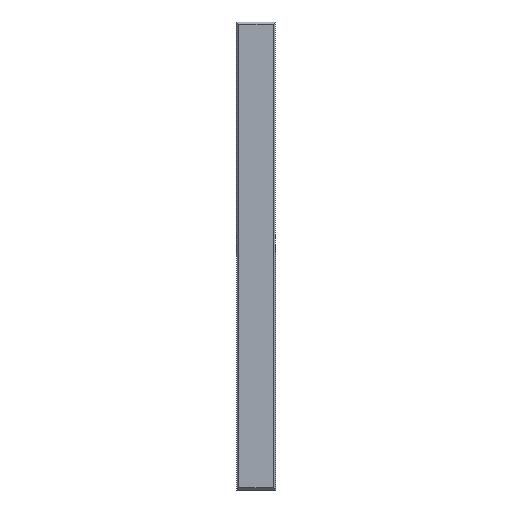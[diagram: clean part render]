
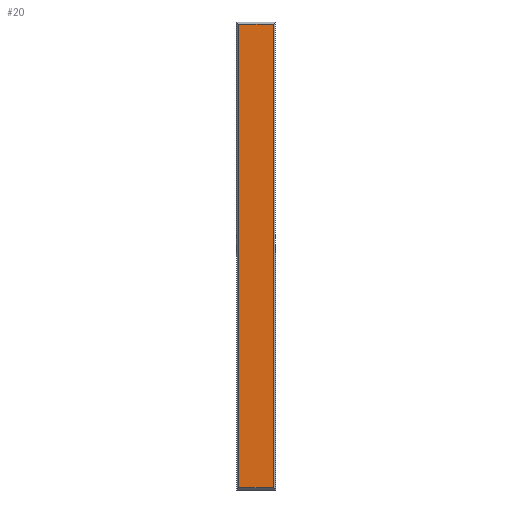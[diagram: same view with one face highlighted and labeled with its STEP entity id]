
A CAD part, front view. The second image highlights one B-rep face of the part: STEP entity #20.
In plain terms, the highlighted planar face has unit normal (0, -1, 0).
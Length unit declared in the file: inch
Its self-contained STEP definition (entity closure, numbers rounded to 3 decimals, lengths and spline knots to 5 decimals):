
#20=ADVANCED_FACE('',(#30),#142,.T.);
#30=FACE_OUTER_BOUND('',#40,.T.);
#40=EDGE_LOOP('',(#68,#69,#70,#71));
#68=ORIENTED_EDGE('',*,*,#84,.F.);
#69=ORIENTED_EDGE('',*,*,#95,.F.);
#70=ORIENTED_EDGE('',*,*,#91,.F.);
#71=ORIENTED_EDGE('',*,*,#88,.F.);
#84=EDGE_CURVE('',#124,#125,#104,.T.);
#88=EDGE_CURVE('',#125,#128,#108,.T.);
#91=EDGE_CURVE('',#128,#130,#111,.T.);
#95=EDGE_CURVE('',#130,#124,#115,.T.);
#104=B_SPLINE_CURVE_WITH_KNOTS('',1,(#285,#286),.UNSPECIFIED.,.F.,.F.,(2,
2),(0.,47.5),.UNSPECIFIED.);
#108=B_SPLINE_CURVE_WITH_KNOTS('',1,(#293,#294),.UNSPECIFIED.,.F.,.F.,(2,
2),(0.,3.5),.UNSPECIFIED.);
#111=B_SPLINE_CURVE_WITH_KNOTS('',1,(#299,#300),.UNSPECIFIED.,.F.,.F.,(2,
2),(0.,47.5),.UNSPECIFIED.);
#115=B_SPLINE_CURVE_WITH_KNOTS('',1,(#307,#308),.UNSPECIFIED.,.F.,.F.,(2,
2),(0.,3.5),.UNSPECIFIED.);
#124=VERTEX_POINT('',#273);
#125=VERTEX_POINT('',#274);
#128=VERTEX_POINT('',#277);
#130=VERTEX_POINT('',#279);
#142=PLANE('',#243);
#243=AXIS2_PLACEMENT_3D('',#269,#256,$);
#256=DIRECTION('',(0.,-1.,0.));
#269=CARTESIAN_POINT('',(-2.10472,-0.5,28.50472));
#273=CARTESIAN_POINT('',(-1.75,-0.5,-23.75));
#274=CARTESIAN_POINT('',(-1.75,-0.5,23.75));
#277=CARTESIAN_POINT('',(1.75,-0.5,23.75));
#279=CARTESIAN_POINT('',(1.75,-0.5,-23.75));
#285=CARTESIAN_POINT('',(-1.75,-0.5,-23.75));
#286=CARTESIAN_POINT('',(-1.75,-0.5,23.75));
#293=CARTESIAN_POINT('',(-1.75,-0.5,23.75));
#294=CARTESIAN_POINT('',(1.75,-0.5,23.75));
#299=CARTESIAN_POINT('',(1.75,-0.5,23.75));
#300=CARTESIAN_POINT('',(1.75,-0.5,-23.75));
#307=CARTESIAN_POINT('',(1.75,-0.5,-23.75));
#308=CARTESIAN_POINT('',(-1.75,-0.5,-23.75));
